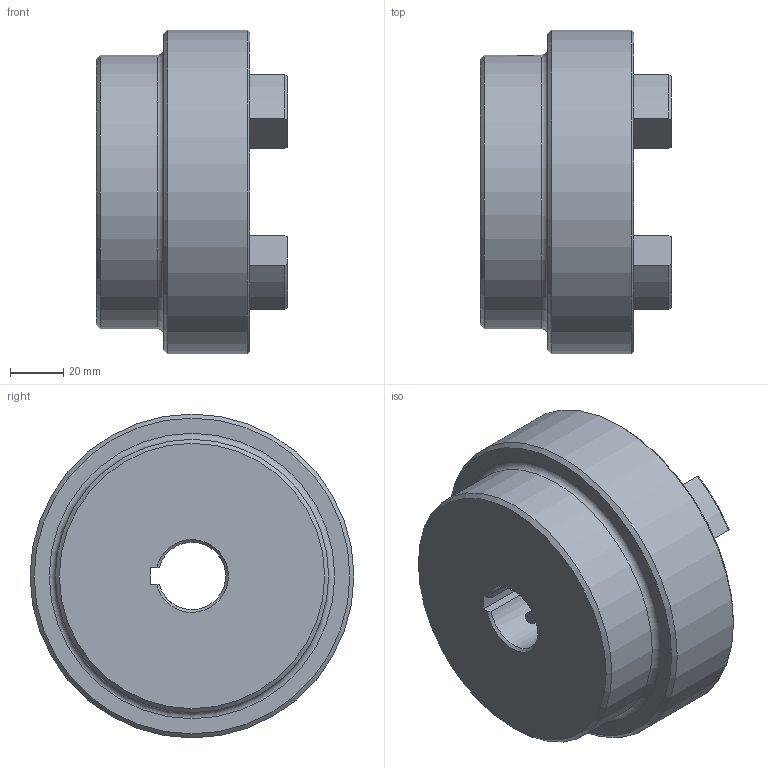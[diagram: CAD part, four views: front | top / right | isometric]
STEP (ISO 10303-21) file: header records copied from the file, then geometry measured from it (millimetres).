
FILE_DESCRIPTION (( 'STEP AP203' ), '1' );
FILE_NAME ('RC5.step', '2024-07-25T13:22:13', ( 'Adlan' ), ( '' ), 'SwSTEP 2.0', 'SolidWorks 2013', '' );
FILE_SCHEMA (( 'CONFIG_CONTROL_DESIGN' ));
Length unit declared in the file: inch
Products named in the file (1): RC5
Bounding box: 72.14 x 122.17 x 122.17 mm (x, y, z)
Volume: 456331.4 mm3; surface area: 59345.8 mm2
Topology: 1 solids, 1 shells, 83 faces, 210 edges, 131 vertices
Faces by surface type: cylinder 33, plane 19, torus 17, cone 14
Full cylindrical faces by diameter (mm): 5.105 x2, 103.124 x1, 122.174 x1
Entity records: 2755 total; most frequent: CARTESIAN_POINT 674, DIRECTION 446, ORIENTED_EDGE 394, EDGE_CURVE 197, AXIS2_PLACEMENT_3D 178, VERTEX_POINT 128, EDGE_LOOP 101, CIRCLE 94
